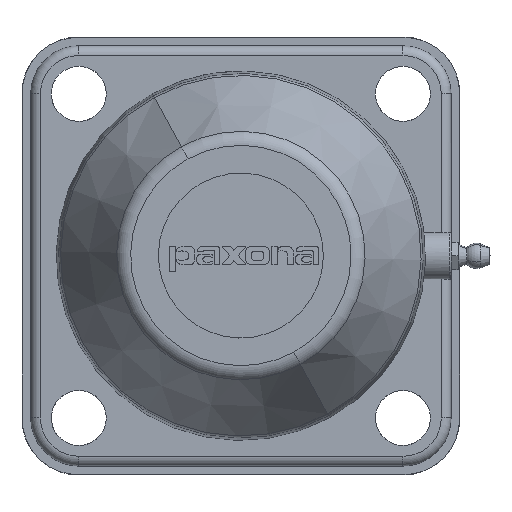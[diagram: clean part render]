
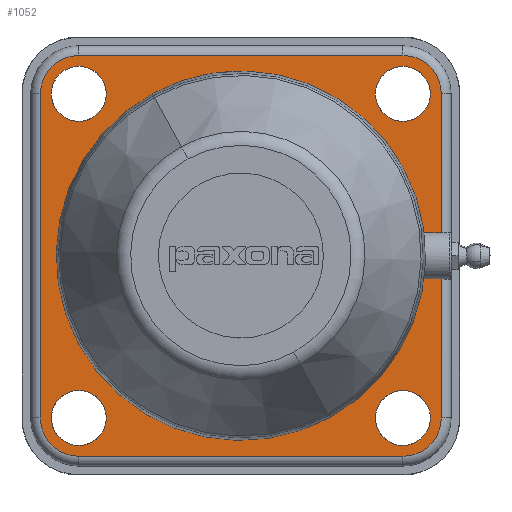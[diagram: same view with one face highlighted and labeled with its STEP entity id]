
A CAD part, top view. The second image highlights one B-rep face of the part: STEP entity #1052.
In plain terms, the highlighted planar face has unit normal (0, 0, 1).
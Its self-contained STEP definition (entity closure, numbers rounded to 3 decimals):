
#405=CARTESIAN_POINT('Line Origine',(51.,0.,17.)) ;
#409=CARTESIAN_POINT('Vertex',(51.,-41.25,17.)) ;
#411=CARTESIAN_POINT('Vertex',(51.,-5.857,17.)) ;
#633=CARTESIAN_POINT('Vertex',(51.,41.25,17.)) ;
#636=CARTESIAN_POINT('Line Origine',(51.,0.,17.)) ;
#640=CARTESIAN_POINT('Vertex',(51.,5.857,17.)) ;
#871=CARTESIAN_POINT('Axis2P3D Location',(0.,0.,17.)) ;
#876=CARTESIAN_POINT('Axis2P3D Location',(41.25,41.25,17.)) ;
#880=CARTESIAN_POINT('Vertex',(41.25,51.,17.)) ;
#883=CARTESIAN_POINT('Line Origine',(0.,51.,17.)) ;
#887=CARTESIAN_POINT('Vertex',(-41.25,51.,17.)) ;
#890=CARTESIAN_POINT('Axis2P3D Location',(-41.25,41.25,17.)) ;
#894=CARTESIAN_POINT('Vertex',(-51.,41.25,17.)) ;
#897=CARTESIAN_POINT('Line Origine',(-51.,0.,17.)) ;
#901=CARTESIAN_POINT('Vertex',(-51.,-41.25,17.)) ;
#904=CARTESIAN_POINT('Axis2P3D Location',(-41.25,-41.25,17.)) ;
#908=CARTESIAN_POINT('Vertex',(-41.25,-51.,17.)) ;
#911=CARTESIAN_POINT('Line Origine',(0.,-51.,17.)) ;
#915=CARTESIAN_POINT('Vertex',(41.25,-51.,17.)) ;
#918=CARTESIAN_POINT('Axis2P3D Location',(41.25,-41.25,17.)) ;
#923=CARTESIAN_POINT('Line Origine',(48.375,-5.857,17.)) ;
#927=CARTESIAN_POINT('Vertex',(45.751,-5.857,17.)) ;
#930=CARTESIAN_POINT('Axis2P3D Location',(0.,0.,17.)) ;
#934=CARTESIAN_POINT('Vertex',(45.727,-6.042,17.)) ;
#937=CARTESIAN_POINT('Axis2P3D Location',(0.,0.,17.)) ;
#941=CARTESIAN_POINT('Vertex',(-46.124,0.,17.)) ;
#944=CARTESIAN_POINT('Axis2P3D Location',(0.,0.,17.)) ;
#948=CARTESIAN_POINT('Vertex',(-45.697,6.26,17.)) ;
#951=CARTESIAN_POINT('Axis2P3D Location',(0.,0.,17.)) ;
#955=CARTESIAN_POINT('Vertex',(45.751,5.857,17.)) ;
#958=CARTESIAN_POINT('Line Origine',(48.375,5.857,17.)) ;
#980=CARTESIAN_POINT('Axis2P3D Location',(41.25,41.25,17.)) ;
#984=CARTESIAN_POINT('Vertex',(48.25,41.25,17.)) ;
#986=CARTESIAN_POINT('Vertex',(34.25,41.25,17.)) ;
#989=CARTESIAN_POINT('Axis2P3D Location',(41.25,41.25,17.)) ;
#998=CARTESIAN_POINT('Axis2P3D Location',(-41.25,41.25,17.)) ;
#1002=CARTESIAN_POINT('Vertex',(-34.25,41.25,17.)) ;
#1004=CARTESIAN_POINT('Vertex',(-48.25,41.25,17.)) ;
#1007=CARTESIAN_POINT('Axis2P3D Location',(-41.25,41.25,17.)) ;
#1016=CARTESIAN_POINT('Axis2P3D Location',(41.25,-41.25,17.)) ;
#1020=CARTESIAN_POINT('Vertex',(48.25,-41.25,17.)) ;
#1022=CARTESIAN_POINT('Vertex',(34.25,-41.25,17.)) ;
#1025=CARTESIAN_POINT('Axis2P3D Location',(41.25,-41.25,17.)) ;
#1034=CARTESIAN_POINT('Axis2P3D Location',(-41.25,-41.25,17.)) ;
#1038=CARTESIAN_POINT('Vertex',(-34.25,-41.25,17.)) ;
#1040=CARTESIAN_POINT('Vertex',(-48.25,-41.25,17.)) ;
#1043=CARTESIAN_POINT('Axis2P3D Location',(-41.25,-41.25,17.)) ;
#406=DIRECTION('Vector Direction',(0.,-1.,0.)) ;
#637=DIRECTION('Vector Direction',(0.,-1.,0.)) ;
#872=DIRECTION('Axis2P3D Direction',(0.,0.,1.)) ;
#873=DIRECTION('Axis2P3D XDirection',(1.,0.,0.)) ;
#877=DIRECTION('Axis2P3D Direction',(0.,0.,1.)) ;
#884=DIRECTION('Vector Direction',(1.,0.,0.)) ;
#891=DIRECTION('Axis2P3D Direction',(0.,0.,1.)) ;
#898=DIRECTION('Vector Direction',(0.,1.,0.)) ;
#905=DIRECTION('Axis2P3D Direction',(0.,0.,1.)) ;
#912=DIRECTION('Vector Direction',(1.,0.,0.)) ;
#919=DIRECTION('Axis2P3D Direction',(0.,0.,1.)) ;
#924=DIRECTION('Vector Direction',(1.,0.,0.)) ;
#931=DIRECTION('Axis2P3D Direction',(0.,0.,1.)) ;
#938=DIRECTION('Axis2P3D Direction',(0.,0.,1.)) ;
#945=DIRECTION('Axis2P3D Direction',(0.,0.,1.)) ;
#952=DIRECTION('Axis2P3D Direction',(0.,0.,1.)) ;
#959=DIRECTION('Vector Direction',(1.,0.,0.)) ;
#981=DIRECTION('Axis2P3D Direction',(0.,0.,1.)) ;
#990=DIRECTION('Axis2P3D Direction',(0.,0.,1.)) ;
#999=DIRECTION('Axis2P3D Direction',(0.,0.,1.)) ;
#1008=DIRECTION('Axis2P3D Direction',(0.,0.,1.)) ;
#1017=DIRECTION('Axis2P3D Direction',(0.,0.,1.)) ;
#1026=DIRECTION('Axis2P3D Direction',(0.,0.,1.)) ;
#1035=DIRECTION('Axis2P3D Direction',(0.,0.,1.)) ;
#1044=DIRECTION('Axis2P3D Direction',(0.,0.,1.)) ;
#874=AXIS2_PLACEMENT_3D('Plane Axis2P3D',#871,#872,#873) ;
#878=AXIS2_PLACEMENT_3D('Circle Axis2P3D',#876,#877,$) ;
#892=AXIS2_PLACEMENT_3D('Circle Axis2P3D',#890,#891,$) ;
#906=AXIS2_PLACEMENT_3D('Circle Axis2P3D',#904,#905,$) ;
#920=AXIS2_PLACEMENT_3D('Circle Axis2P3D',#918,#919,$) ;
#932=AXIS2_PLACEMENT_3D('Circle Axis2P3D',#930,#931,$) ;
#939=AXIS2_PLACEMENT_3D('Circle Axis2P3D',#937,#938,$) ;
#946=AXIS2_PLACEMENT_3D('Circle Axis2P3D',#944,#945,$) ;
#953=AXIS2_PLACEMENT_3D('Circle Axis2P3D',#951,#952,$) ;
#982=AXIS2_PLACEMENT_3D('Circle Axis2P3D',#980,#981,$) ;
#991=AXIS2_PLACEMENT_3D('Circle Axis2P3D',#989,#990,$) ;
#1000=AXIS2_PLACEMENT_3D('Circle Axis2P3D',#998,#999,$) ;
#1009=AXIS2_PLACEMENT_3D('Circle Axis2P3D',#1007,#1008,$) ;
#1018=AXIS2_PLACEMENT_3D('Circle Axis2P3D',#1016,#1017,$) ;
#1027=AXIS2_PLACEMENT_3D('Circle Axis2P3D',#1025,#1026,$) ;
#1036=AXIS2_PLACEMENT_3D('Circle Axis2P3D',#1034,#1035,$) ;
#1045=AXIS2_PLACEMENT_3D('Circle Axis2P3D',#1043,#1044,$) ;
#964=ORIENTED_EDGE('',*,*,#642,.T.) ;
#965=ORIENTED_EDGE('',*,*,#882,.T.) ;
#966=ORIENTED_EDGE('',*,*,#889,.T.) ;
#967=ORIENTED_EDGE('',*,*,#896,.T.) ;
#968=ORIENTED_EDGE('',*,*,#903,.T.) ;
#969=ORIENTED_EDGE('',*,*,#910,.T.) ;
#970=ORIENTED_EDGE('',*,*,#917,.T.) ;
#971=ORIENTED_EDGE('',*,*,#922,.T.) ;
#972=ORIENTED_EDGE('',*,*,#413,.T.) ;
#973=ORIENTED_EDGE('',*,*,#929,.T.) ;
#974=ORIENTED_EDGE('',*,*,#936,.F.) ;
#975=ORIENTED_EDGE('',*,*,#943,.F.) ;
#976=ORIENTED_EDGE('',*,*,#950,.F.) ;
#977=ORIENTED_EDGE('',*,*,#957,.F.) ;
#978=ORIENTED_EDGE('',*,*,#962,.F.) ;
#995=ORIENTED_EDGE('',*,*,#988,.F.) ;
#996=ORIENTED_EDGE('',*,*,#993,.F.) ;
#1013=ORIENTED_EDGE('',*,*,#1006,.F.) ;
#1014=ORIENTED_EDGE('',*,*,#1011,.F.) ;
#1031=ORIENTED_EDGE('',*,*,#1024,.F.) ;
#1032=ORIENTED_EDGE('',*,*,#1029,.F.) ;
#1049=ORIENTED_EDGE('',*,*,#1042,.F.) ;
#1050=ORIENTED_EDGE('',*,*,#1047,.F.) ;
#997=FACE_BOUND('',#994,.T.) ;
#1015=FACE_BOUND('',#1012,.T.) ;
#1033=FACE_BOUND('',#1030,.T.) ;
#1051=FACE_BOUND('',#1048,.T.) ;
#407=VECTOR('Line Direction',#406,1.) ;
#638=VECTOR('Line Direction',#637,1.) ;
#885=VECTOR('Line Direction',#884,1.) ;
#899=VECTOR('Line Direction',#898,1.) ;
#913=VECTOR('Line Direction',#912,1.) ;
#925=VECTOR('Line Direction',#924,1.) ;
#960=VECTOR('Line Direction',#959,1.) ;
#1052=ADVANCED_FACE('PartBody',(#979,#997,#1015,#1033,#1051),#875,.T.) ;
#879=CIRCLE('generated circle',#878,9.75) ;
#893=CIRCLE('generated circle',#892,9.75) ;
#907=CIRCLE('generated circle',#906,9.75) ;
#921=CIRCLE('generated circle',#920,9.75) ;
#933=CIRCLE('generated circle',#932,46.124) ;
#940=CIRCLE('generated circle',#939,46.124) ;
#947=CIRCLE('generated circle',#946,46.124) ;
#954=CIRCLE('generated circle',#953,46.124) ;
#983=CIRCLE('generated circle',#982,7.) ;
#992=CIRCLE('generated circle',#991,7.) ;
#1001=CIRCLE('generated circle',#1000,7.) ;
#1010=CIRCLE('generated circle',#1009,7.) ;
#1019=CIRCLE('generated circle',#1018,7.) ;
#1028=CIRCLE('generated circle',#1027,7.) ;
#1037=CIRCLE('generated circle',#1036,7.) ;
#1046=CIRCLE('generated circle',#1045,7.) ;
#413=EDGE_CURVE('',#410,#412,#408,.F.) ;
#642=EDGE_CURVE('',#641,#634,#639,.F.) ;
#882=EDGE_CURVE('',#634,#881,#879,.T.) ;
#889=EDGE_CURVE('',#881,#888,#886,.F.) ;
#896=EDGE_CURVE('',#888,#895,#893,.T.) ;
#903=EDGE_CURVE('',#895,#902,#900,.F.) ;
#910=EDGE_CURVE('',#902,#909,#907,.T.) ;
#917=EDGE_CURVE('',#909,#916,#914,.T.) ;
#922=EDGE_CURVE('',#916,#410,#921,.T.) ;
#929=EDGE_CURVE('',#412,#928,#926,.F.) ;
#936=EDGE_CURVE('',#935,#928,#933,.T.) ;
#943=EDGE_CURVE('',#942,#935,#940,.T.) ;
#950=EDGE_CURVE('',#949,#942,#947,.T.) ;
#957=EDGE_CURVE('',#956,#949,#954,.T.) ;
#962=EDGE_CURVE('',#641,#956,#961,.F.) ;
#988=EDGE_CURVE('',#985,#987,#983,.T.) ;
#993=EDGE_CURVE('',#987,#985,#992,.T.) ;
#1006=EDGE_CURVE('',#1003,#1005,#1001,.T.) ;
#1011=EDGE_CURVE('',#1005,#1003,#1010,.T.) ;
#1024=EDGE_CURVE('',#1021,#1023,#1019,.T.) ;
#1029=EDGE_CURVE('',#1023,#1021,#1028,.T.) ;
#1042=EDGE_CURVE('',#1039,#1041,#1037,.T.) ;
#1047=EDGE_CURVE('',#1041,#1039,#1046,.T.) ;
#963=EDGE_LOOP('',(#964,#965,#966,#967,#968,#969,#970,#971,#972,#973,#974,#975,#976,#977,#978)) ;
#994=EDGE_LOOP('',(#995,#996)) ;
#1012=EDGE_LOOP('',(#1013,#1014)) ;
#1030=EDGE_LOOP('',(#1031,#1032)) ;
#1048=EDGE_LOOP('',(#1049,#1050)) ;
#979=FACE_OUTER_BOUND('',#963,.T.) ;
#408=LINE('Line',#405,#407) ;
#639=LINE('Line',#636,#638) ;
#886=LINE('Line',#883,#885) ;
#900=LINE('Line',#897,#899) ;
#914=LINE('Line',#911,#913) ;
#926=LINE('Line',#923,#925) ;
#961=LINE('Line',#958,#960) ;
#875=PLANE('',#874) ;
#410=VERTEX_POINT('',#409) ;
#412=VERTEX_POINT('',#411) ;
#634=VERTEX_POINT('',#633) ;
#641=VERTEX_POINT('',#640) ;
#881=VERTEX_POINT('',#880) ;
#888=VERTEX_POINT('',#887) ;
#895=VERTEX_POINT('',#894) ;
#902=VERTEX_POINT('',#901) ;
#909=VERTEX_POINT('',#908) ;
#916=VERTEX_POINT('',#915) ;
#928=VERTEX_POINT('',#927) ;
#935=VERTEX_POINT('',#934) ;
#942=VERTEX_POINT('',#941) ;
#949=VERTEX_POINT('',#948) ;
#956=VERTEX_POINT('',#955) ;
#985=VERTEX_POINT('',#984) ;
#987=VERTEX_POINT('',#986) ;
#1003=VERTEX_POINT('',#1002) ;
#1005=VERTEX_POINT('',#1004) ;
#1021=VERTEX_POINT('',#1020) ;
#1023=VERTEX_POINT('',#1022) ;
#1039=VERTEX_POINT('',#1038) ;
#1041=VERTEX_POINT('',#1040) ;
